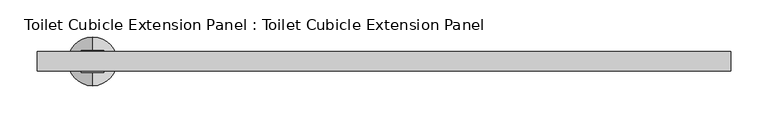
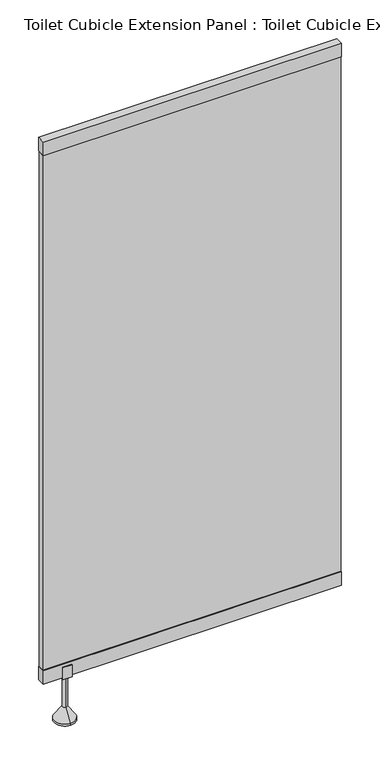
"""IFC4 building model written with IfcOpenShell, lengths in millimetres: proxy geometry, Toilet Cubicle Extension Panel : Toilet Cubicle Extension Panel."""

from ifc_helpers import new_model, si_unit, frame, origin, place, context, project, spatial, polyline, circle_curve, outline, extrude, source, transform, mapped, element, save
from ifc_brep_helpers import plane_surface, cylinder_surface, revolved_surface, advanced_brep


def toilet_cubicle_extension_panel_toilet_cubicle_extension_865a72fd(model_context):
    return source(origin(), model_context, "Body", "SolidModel", [
        extrude(outline(polyline([(-1785.0, 145.0), (-1815.0, 145.0), (-1815.0, 185.0), (-1810.0, 185.0), (-1810.0, 150.0), (-1790.0, 150.0), (-1790.0, 185.0), (-1785.0, 185.0), (-1785.0, 145.0)])), frame((457.9310706, 0.0, 0.0), z_axis=(1.0, 0.0, 0.0), x_axis=(0.0, 1.0, 0.0)), (0.0, 0.0, 1.0), 30.0),
        advanced_brep(
        [(472.9310706, -1832.9430575, 7.2339182), (472.9310706, -1767.0569425, 7.2339182), (472.9310706, -1792.5, 43.57037), (472.9310706, -1807.5, 43.57037), (472.9310706, -1832.9430575, 0.0), (472.9310706, -1767.0569425, 0.0), (472.9310706, -1800.0, 0.0), (472.9310706, -1807.5, 145.0), (472.9310706, -1792.5, 145.0), (472.9310706, -1800.0, 145.0)],
        [
            (0, 1, circle_curve(frame((472.9310706, -1800.0, 7.2339182), z_axis=(0.0, 0.0, 1.0), x_axis=(0.0, 1.0, 0.0)), 32.9430575)),
            (1, 2),
            (2, 3, circle_curve(frame((472.9310706, -1800.0, 43.57037), z_axis=(0.0, 0.0, -1.0), x_axis=(0.0, 1.0, 0.0)), 7.5)),
            (3, 0),
            (1, 0, circle_curve(frame((472.9310706, -1800.0, 7.2339182), z_axis=(0.0, 0.0, 1.0), x_axis=(0.0, 1.0, 0.0)), 32.9430575)),
            (3, 2, circle_curve(frame((472.9310706, -1800.0, 43.57037), z_axis=(0.0, 0.0, -1.0), x_axis=(0.0, 1.0, 0.0)), 7.5)),
            (4, 5, circle_curve(frame((472.9310706, -1800.0, 0.0), z_axis=(0.0, 0.0, 1.0), x_axis=(0.0, 1.0, 0.0)), 32.9430575)),
            (5, 1),
            (0, 4),
            (5, 4, circle_curve(frame((472.9310706, -1800.0, 0.0), z_axis=(0.0, 0.0, 1.0), x_axis=(0.0, 1.0, 0.0)), 32.9430575)),
            (6, 5),
            (4, 6),
            (7, 8, circle_curve(frame((472.9310706, -1800.0, 145.0), z_axis=(0.0, 0.0, 1.0), x_axis=(0.0, 1.0, 0.0)), 7.5)),
            (8, 9),
            (9, 7),
            (8, 7, circle_curve(frame((472.9310706, -1800.0, 145.0), z_axis=(0.0, 0.0, 1.0), x_axis=(0.0, 1.0, 0.0)), 7.5)),
            (2, 8),
            (7, 3),
        ],
        [
            revolved_surface(polyline([(472.9310706, -1792.5, 43.57037), (472.9310706, -1767.0569425, 7.2339182)]), (472.9310706, -1800.0, -60.0), (0.0, 0.0, -1.0)),
            cylinder_surface(frame((472.9310706, -1800.0, -60.0), z_axis=(0.0, 0.0, -1.0), x_axis=(0.0, 1.0, 0.0)), 32.9430575),
            plane_surface(frame((472.9310706, -1800.0, 0.0), z_axis=(0.0, 0.0, -1.0), x_axis=(0.0, 1.0, 0.0))),
            plane_surface(frame((472.9310706, -1800.0, 145.0), z_axis=(0.0, 0.0, 1.0), x_axis=(0.0, 1.0, 0.0))),
            cylinder_surface(frame((472.9310706, -1800.0, -60.0), z_axis=(0.0, 0.0, -1.0), x_axis=(0.0, 1.0, 0.0)), 7.5),
        ],
        [
            (0, [[1, 2, 3, 4]]),
            (0, [[5, -4, 6, -2]]),
            (1, [[7, 8, -1, 9]]),
            (1, [[10, -9, -5, -8]]),
            (2, [[11, -7, 12]]),
            (2, [[-12, -10, -11]]),
            (3, [[13, 14, 15]]),
            (3, [[16, -15, -14]]),
            (4, [[-3, 17, -13, 18]]),
            (4, [[-6, -18, -16, -17]]),
        ],
    ),
        extrude(outline(polyline([(1335.291338, -1813.0), (397.9310706, -1813.0), (397.9310706, -1787.2947936), (1335.291338, -1787.2947936), (1335.291338, -1813.0)])), frame((0.0, 0.0, 1905.0), z_axis=(0.0, 0.0, 1.0), x_axis=(1.0, 0.0, 0.0)), (0.0, 0.0, 1.0), 45.0),
        extrude(outline(polyline([(1335.291338, -1813.0), (397.9310706, -1813.0), (397.9310706, -1787.2947936), (1335.291338, -1787.2947936), (1335.291338, -1813.0)])), frame((0.0, 0.0, 150.0), z_axis=(0.0, 0.0, 1.0), x_axis=(1.0, 0.0, 0.0)), (0.0, 0.0, 1.0), 45.0),
        extrude(outline(polyline([(397.9310706, -1810.0), (397.9310706, -1790.0), (1335.291338, -1790.0), (1335.291338, -1810.0), (397.9310706, -1810.0)])), frame((0.0, 0.0, 195.0), z_axis=(0.0, 0.0, 1.0), x_axis=(1.0, 0.0, 0.0)), (0.0, 0.0, 1.0), 1710.0),
    ])


if __name__ == "__main__":
    model = new_model("IFC4")
    model_context = context("Model", 3, world=origin())
    ifc_project = project(units=[si_unit("LENGTHUNIT", "METRE", prefix="MILLI")], contexts=[model_context])
    site = spatial("IfcSite", under=ifc_project)
    building = spatial("IfcBuilding", under=site)
    placement = place(None, origin())
    toilet_cubicle_extension_panel_toilet_cubicle_extension_shape = toilet_cubicle_extension_panel_toilet_cubicle_extension_865a72fd(model_context)
    element("IfcBuildingElementProxy", 1, Name="Toilet Cubicle Extension Panel : Toilet Cubicle Extension Panel", ObjectType="Toilet Cubicle Extension Panel : Toilet Cubicle Extension Panel", at=placement, inside=building, context=model_context, shape_type="MappedRepresentation", body=[
        mapped(toilet_cubicle_extension_panel_toilet_cubicle_extension_shape, transform((0.0, 0.0, 0.0), x_axis=(1.0, 0.0, 0.0), y_axis=(0.0, 1.0, 0.0), z_axis=(0.0, 0.0, 1.0))),
    ])
    save(model, "model.ifc")
